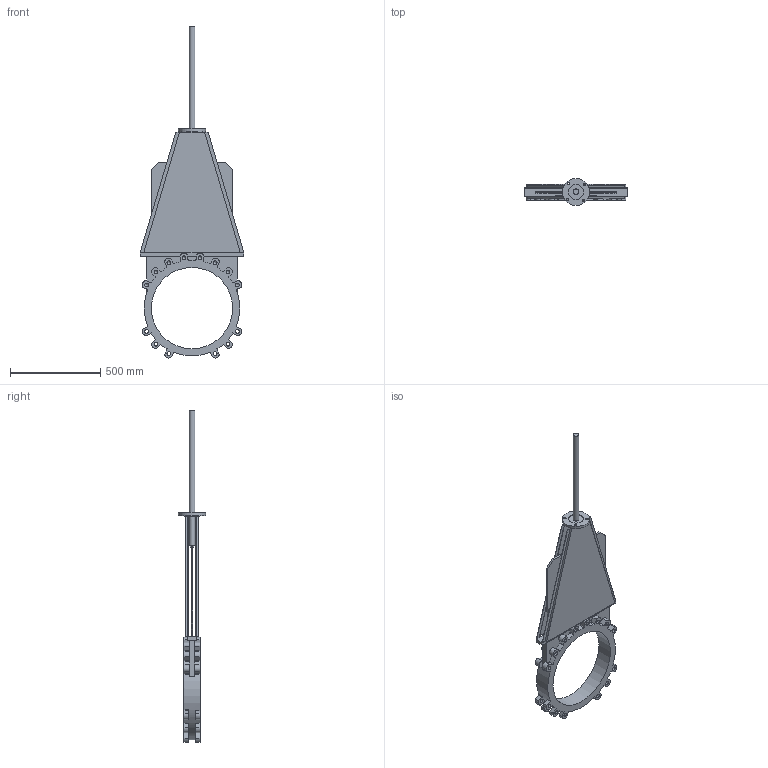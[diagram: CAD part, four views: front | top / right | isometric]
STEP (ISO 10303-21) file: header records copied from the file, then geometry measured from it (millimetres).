
FILE_DESCRIPTION(('STEP AP203'), '1');
FILE_NAME('K51GVA_DN450', '', ('UNSPECIFIED'), ('UNSPECIFIED'), 'ASCON STEP Converter 1.6', 'ASCON Math Kernel', '');
FILE_SCHEMA(('CONFIG_CONTROL_DESIGN'));
Length unit declared in the file: millimetre
Bounding box: 575 x 150 x 1839.44 mm (x, y, z)
Volume: 12062748.1 mm3; surface area: 2297572.8 mm2
Topology: 1 solids, 1 shells, 309 faces, 884 edges, 577 vertices
Faces by surface type: plane 168, cylinder 124, cone 17
Full cylindrical faces by diameter (mm): 14 x4, 20.752 x28, 32 x2, 80 x1, 85 x1, 150 x1, 450 x1
Entity records: 12404 total; most frequent: CARTESIAN_POINT 1800, DIRECTION 1724, ORIENTED_EDGE 1626, EDGE_CURVE 813, AXIS2_PLACEMENT_3D 603, VERTEX_POINT 561, LINE 518, VECTOR 518
